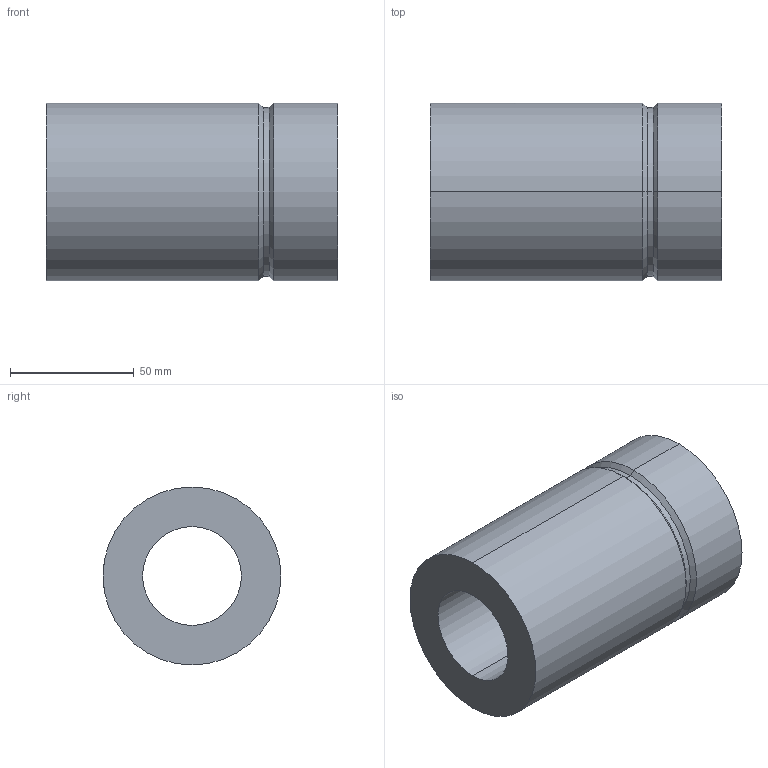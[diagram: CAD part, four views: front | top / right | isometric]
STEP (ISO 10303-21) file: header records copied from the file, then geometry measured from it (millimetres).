
FILE_DESCRIPTION (( 'STEP AP203' ), '1' );
FILE_NAME ('ZE4040-R-2GB.STEP', '2002-08-15T11:59:35', ( '.' ), ( '.' ), 'SwSTEP 2.0', 'SolidWorks 2001340', '' );
FILE_SCHEMA (( 'CONFIG_CONTROL_DESIGN' ));
Length unit declared in the file: millimetre
Products named in the file (1): ZE4040-R-2GB
Bounding box: 118 x 72 x 72 mm (x, y, z)
Volume: 330250.9 mm3; surface area: 47558.6 mm2
Topology: 1 solids, 1 shells, 19 faces, 40 edges, 24 vertices
Faces by surface type: cylinder 10, plane 5, cone 4
Entity records: 641 total; most frequent: CARTESIAN_POINT 140, DIRECTION 96, ORIENTED_EDGE 80, EDGE_CURVE 40, AXIS2_PLACEMENT_3D 38, VERTEX_POINT 24, EDGE_LOOP 22, LINE 20
